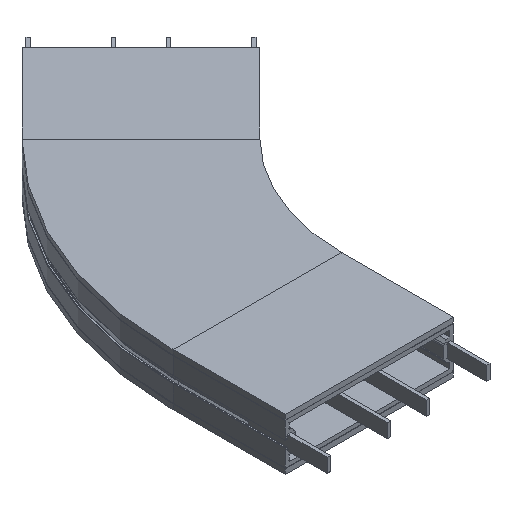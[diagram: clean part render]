
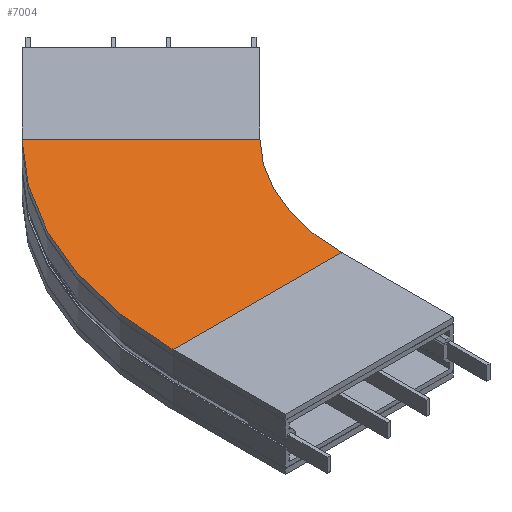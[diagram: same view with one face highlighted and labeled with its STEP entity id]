
A CAD part, isometric view. The second image highlights one B-rep face of the part: STEP entity #7004.
In plain terms, the highlighted planar face has unit normal (0, 0, 1).
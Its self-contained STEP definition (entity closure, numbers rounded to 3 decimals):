
#37 = VECTOR ( 'NONE', #1246, 1000. ) ;
#335 = EDGE_CURVE ( 'NONE', #6196, #9828, #5564, .T. ) ;
#683 = DIRECTION ( 'NONE',  ( 0., 0., 1. ) ) ;
#692 = AXIS2_PLACEMENT_3D ( 'NONE', #6829, #5996, #5508 ) ;
#745 = AXIS2_PLACEMENT_3D ( 'NONE', #2152, #7009, #5301 ) ;
#755 = PLANE ( 'NONE',  #692 ) ;
#1055 = ORIENTED_EDGE ( 'NONE', *, *, #335, .F. ) ;
#1074 = CIRCLE ( 'NONE', #745, 650. ) ;
#1166 = VERTEX_POINT ( 'NONE', #8973 ) ;
#1246 = DIRECTION ( 'NONE',  ( -0.707, 0.707, 0. ) ) ;
#1838 = EDGE_LOOP ( 'NONE', ( #2880, #1055, #5913, #3702 ) ) ;
#1920 = LINE ( 'NONE', #5223, #37 ) ;
#2152 = CARTESIAN_POINT ( 'NONE',  ( 0., 0., 46.5 ) ) ;
#2190 = CARTESIAN_POINT ( 'NONE',  ( -247.487, 247.487, 46.5 ) ) ;
#2587 = AXIS2_PLACEMENT_3D ( 'NONE', #7726, #683, #9375 ) ;
#2880 = ORIENTED_EDGE ( 'NONE', *, *, #5553, .F. ) ;
#3693 = CARTESIAN_POINT ( 'NONE',  ( -459.619, 459.619, 46.5 ) ) ;
#3702 = ORIENTED_EDGE ( 'NONE', *, *, #9447, .T. ) ;
#3833 = CARTESIAN_POINT ( 'NONE',  ( -350., 0., 46.5 ) ) ;
#5223 = CARTESIAN_POINT ( 'NONE',  ( -459.619, 459.619, 46.5 ) ) ;
#5301 = DIRECTION ( 'NONE',  ( -0.707, 0.707, 0. ) ) ;
#5508 = DIRECTION ( 'NONE',  ( 1., 0., 0. ) ) ;
#5553 = EDGE_CURVE ( 'NONE', #9828, #1166, #5670, .T. ) ;
#5564 = CIRCLE ( 'NONE', #2587, 350. ) ;
#5670 = LINE ( 'NONE', #8820, #8498 ) ;
#5913 = ORIENTED_EDGE ( 'NONE', *, *, #8078, .T. ) ;
#5996 = DIRECTION ( 'NONE',  ( 0., 0., 1. ) ) ;
#6196 = VERTEX_POINT ( 'NONE', #2190 ) ;
#6829 = CARTESIAN_POINT ( 'NONE',  ( -459.619, 459.619, 46.5 ) ) ;
#7004 = ADVANCED_FACE ( 'NONE', ( #9199 ), #755, .T. ) ;
#7009 = DIRECTION ( 'NONE',  ( 0., 0., 1. ) ) ;
#7726 = CARTESIAN_POINT ( 'NONE',  ( 0., 0., 46.5 ) ) ;
#8078 = EDGE_CURVE ( 'NONE', #6196, #9423, #1920, .T. ) ;
#8498 = VECTOR ( 'NONE', #9751, 1000. ) ;
#8820 = CARTESIAN_POINT ( 'NONE',  ( -650., 0., 46.5 ) ) ;
#8973 = CARTESIAN_POINT ( 'NONE',  ( -650., 0., 46.5 ) ) ;
#9199 = FACE_OUTER_BOUND ( 'NONE', #1838, .T. ) ;
#9375 = DIRECTION ( 'NONE',  ( -0.707, 0.707, 0. ) ) ;
#9423 = VERTEX_POINT ( 'NONE', #3693 ) ;
#9447 = EDGE_CURVE ( 'NONE', #9423, #1166, #1074, .T. ) ;
#9751 = DIRECTION ( 'NONE',  ( -1., 0., 0. ) ) ;
#9828 = VERTEX_POINT ( 'NONE', #3833 ) ;
